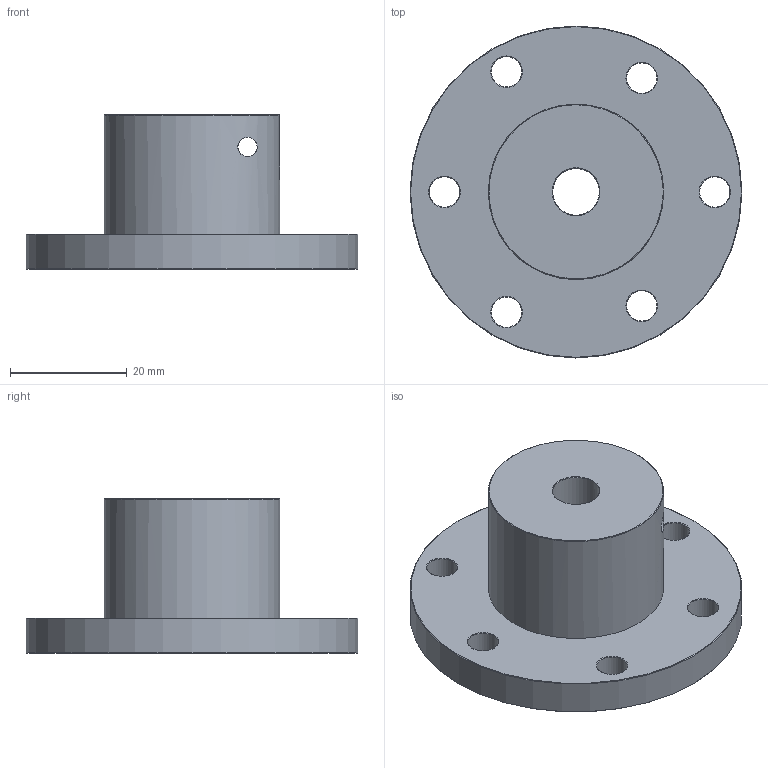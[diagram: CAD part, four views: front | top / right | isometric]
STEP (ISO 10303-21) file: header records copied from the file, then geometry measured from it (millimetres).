
FILE_DESCRIPTION( ('This file contains a STEP AP42 implementation' ,'as created by ZW3D STEP Interface translator.') ,'2;1' );
FILE_NAME( '轴直径8mm_抱紧式联轴器_带法兰.stp' ,'24 514.134352', (''), ('ZWCAD Software Co.'), 'Version 1.0', 'ZW3D to STEP translator', '' );
FILE_SCHEMA(('AUTOMOTIVE_DESIGN { 1 0 10303 214 1 1 1 1 }'));
Length unit declared in the file: millimetre
Products named in the file (2): 0; 轴直径8mm_抱紧式联轴器_带法兰
Bounding box: 56.8 x 56.8 x 26.4 mm (x, y, z)
Volume: 27112.4 mm3; surface area: 9205.3 mm2
Topology: 1 solids, 1 shells, 39 faces, 87 edges, 53 vertices
Faces by surface type: cone 18, cylinder 12, plane 9
Full cylindrical faces by diameter (mm): 3.3 x1, 4.2 x1, 5.2 x6, 6.9 x1, 8 x1, 30 x1, 56.8 x1
Entity records: 1236 total; most frequent: CARTESIAN_POINT 240, DIRECTION 203, ORIENTED_EDGE 174, EDGE_CURVE 87, AXIS2_PLACEMENT_3D 85, EDGE_LOOP 58, VERTEX_POINT 53, CIRCLE 44
